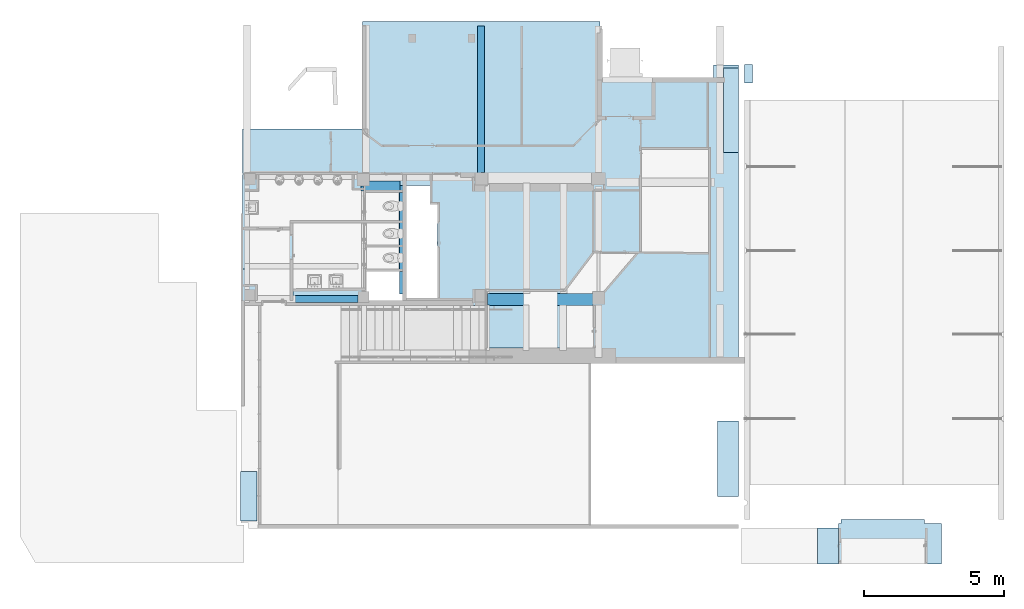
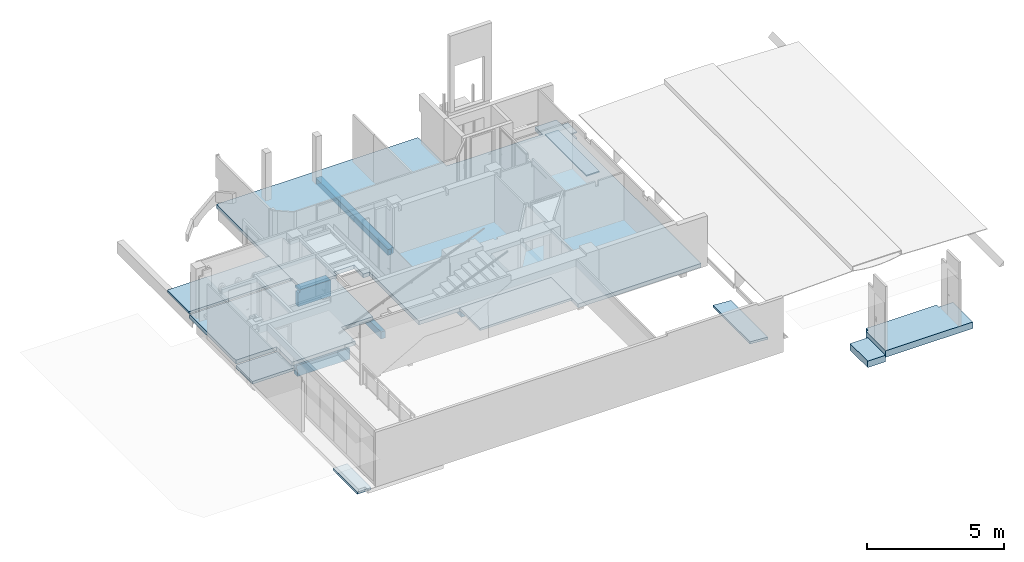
# One storey, part 2 of 32: 12 slabs, 5 beams.
"""IFC4 building model written with IfcOpenShell, lengths in metres."""

from ifc_helpers import new_model, entity, si_unit, converted_unit, derived_unit, direction, frame, origin, place, context, subcontext, project, spatial, indexed_curve, outline, extrude, polygons, source, transform, mapped, material, layer, layer_set, type_object, type_shapes, element, save


model = new_model("IFC4")

# Units and contexts
model_context = context("Model", 3, precision=1e-05, world=origin(), true_north=direction((6.12303176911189e-17, 1.0)))
body_context = subcontext(model_context, "Body", "Model", "MODEL_VIEW")
ifc_project = project(units=[si_unit("LENGTHUNIT", "METRE"), si_unit("AREAUNIT", "SQUARE_METRE"), si_unit("VOLUMEUNIT", "CUBIC_METRE"), converted_unit("PLANEANGLEUNIT", "DEGREE", entity("IfcRatioMeasure", 0.0174532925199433), si_unit("PLANEANGLEUNIT", "RADIAN"), dimensions=[0, 0, 0, 0, 0, 0, 0]), si_unit("MASSUNIT", "GRAM", prefix="KILO"), derived_unit("MASSDENSITYUNIT", [(si_unit("MASSUNIT", "GRAM", prefix="KILO"), 1), (si_unit("LENGTHUNIT", "METRE"), -3)]), derived_unit("MOMENTOFINERTIAUNIT", [(si_unit("LENGTHUNIT", "METRE"), 4)]), si_unit("TIMEUNIT", "SECOND"), si_unit("FREQUENCYUNIT", "HERTZ"), si_unit("THERMODYNAMICTEMPERATUREUNIT", "DEGREE_CELSIUS"), derived_unit("THERMALTRANSMITTANCEUNIT", [(si_unit("MASSUNIT", "GRAM", prefix="KILO"), 1), (si_unit("THERMODYNAMICTEMPERATUREUNIT", "KELVIN"), -1), (si_unit("TIMEUNIT", "SECOND"), -3)]), derived_unit("VOLUMETRICFLOWRATEUNIT", [(si_unit("LENGTHUNIT", "METRE"), 3), (si_unit("TIMEUNIT", "SECOND"), -1)]), si_unit("ELECTRICCURRENTUNIT", "AMPERE"), si_unit("ELECTRICVOLTAGEUNIT", "VOLT"), si_unit("POWERUNIT", "WATT"), si_unit("FORCEUNIT", "NEWTON", prefix="KILO"), si_unit("ILLUMINANCEUNIT", "LUX"), si_unit("LUMINOUSFLUXUNIT", "LUMEN"), si_unit("LUMINOUSINTENSITYUNIT", "CANDELA"), derived_unit("USERDEFINED", [(si_unit("MASSUNIT", "GRAM", prefix="KILO"), -1), (si_unit("LENGTHUNIT", "METRE"), -2), (si_unit("TIMEUNIT", "SECOND"), 3), (si_unit("LUMINOUSFLUXUNIT", "LUMEN"), 1)]), derived_unit("LINEARVELOCITYUNIT", [(si_unit("LENGTHUNIT", "METRE"), 1), (si_unit("TIMEUNIT", "SECOND"), -1)]), si_unit("PRESSUREUNIT", "PASCAL"), derived_unit("USERDEFINED", [(si_unit("LENGTHUNIT", "METRE"), -2), (si_unit("MASSUNIT", "GRAM", prefix="KILO"), 1), (si_unit("TIMEUNIT", "SECOND"), -2)]), derived_unit("LINEARFORCEUNIT", [(si_unit("MASSUNIT", "GRAM", prefix="KILO"), 1), (si_unit("LENGTHUNIT", "METRE"), 1), (si_unit("TIMEUNIT", "SECOND"), -2), (si_unit("LENGTHUNIT", "METRE"), -1)]), derived_unit("PLANARFORCEUNIT", [(si_unit("MASSUNIT", "GRAM", prefix="KILO"), 1), (si_unit("LENGTHUNIT", "METRE"), 1), (si_unit("TIMEUNIT", "SECOND"), -2), (si_unit("LENGTHUNIT", "METRE"), -2)])], contexts=[model_context])

# Site, building, storey
site_placement = place(None, origin())
site = spatial("IfcSite", under=ifc_project, at=site_placement, Name="Default", CompositionType="ELEMENT")
building_placement = place(site_placement, origin())
building = spatial("IfcBuilding", under=site, at=building_placement, Name="HOTEL CONSULAIRE BOULOGNE SUR MER", CompositionType="ELEMENT")
storey_placement = place(building_placement, frame((0.0, 0.0, -2.70343668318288)))
storey = spatial("IfcBuildingStorey", under=building, at=storey_placement, Name="SS1", CompositionType="ELEMENT", Elevation=-2.70343668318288)

# Beams
ifc_material_1 = material(Name="Béton - Béton coulé sur place", Category="Béton")
beam_type_1 = type_object("IfcBeamType", Name="Poutre rectangulaire - Béton:420X360", PredefinedType="BEAM", material=ifc_material_1)
shared_shape_1 = source(origin(), body_context, "Body", "Tessellation", [
    polygons([(3.765, -4.33146851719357e-15, 0.36), (3.765, -4.33146851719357e-15, 0.357990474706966), (3.765, -4.33146851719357e-15, 5.41433564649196e-16), (3.765, 0.419999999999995, 5.41433564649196e-16), (3.765, 0.419999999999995, 0.287990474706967), (3.765, 0.00299545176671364, 0.287990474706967), (3.765, 0.00299545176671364, 0.357990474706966), (3.765, 0.00299545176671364, 0.36), (2.16573425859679e-15, 0.420000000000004, 5.41433564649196e-16), (5.41433564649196e-16, 4.33146851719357e-15, 5.41433564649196e-16), (5.41433564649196e-16, 4.33146851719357e-15, 0.013999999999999), (5.41433564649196e-16, 0.0125453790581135, 0.013999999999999), (5.41433564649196e-16, 0.0125453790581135, 0.287990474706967), (2.16573425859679e-15, 0.420000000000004, 0.287990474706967), (0.0712821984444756, 8.66293703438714e-15, 0.36), (0.0712821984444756, 8.66293703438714e-15, 0.013999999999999), (3.71220501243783, -4.33146851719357e-15, 5.41433564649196e-16), (3.70676141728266, 0.419999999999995, 5.41433564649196e-16), (1.26028219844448, 0.420000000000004, 0.287990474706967), (1.51028219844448, 0.420000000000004, 0.287990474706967), (2.58628219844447, 0.42, 0.287990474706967), (2.83628219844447, 0.42, 0.287990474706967), (3.70676141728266, 0.419999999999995, 0.287990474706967), (0.0712821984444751, 0.0029954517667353, 0.36), (0.0712821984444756, 0.0125453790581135, 0.013999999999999), (0.0712821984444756, 0.0125453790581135, 0.287990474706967), (0.0712821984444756, 0.0029954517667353, 0.287990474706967)], [[[1, 2, 3, 4, 5, 6, 7, 8]], [[12, 13, 14, 9, 10, 11]], [[27, 26, 25, 16, 15, 24]], [[2, 1, 15, 16, 11, 10, 17, 3]], [[12, 25, 26, 13]], [[4, 3, 17, 10, 9, 18]], [[4, 18, 9, 14, 19, 20, 21, 22, 23, 5]], [[7, 6, 27, 24, 8]], [[1, 8, 24, 15]], [[16, 25, 12, 11]], [[23, 22, 21, 20, 19, 14, 13, 26, 27, 6, 5]]], closed=True),
])
type_shapes(beam_type_1, [shared_shape_1])
beam_1_placement = place(storey_placement, frame((3.19655886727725, -20.097909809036, -0.144000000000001)))
element("IfcBeam", 1, at=beam_1_placement, inside=storey, type_object=beam_type_1, material=ifc_material_1, Name="Poutre rectangulaire - Béton:420X360", ObjectType="Poutre rectangulaire - Béton:420X360", PredefinedType="BEAM", context=body_context, shape_type="MappedRepresentation", body=[
    mapped(shared_shape_1, transform((0.0, 0.0, 0.0), scale=1.0)),
])
beam_type_2 = type_object("IfcBeamType", Name="Poutre rectangulaire - Béton:360x720", PredefinedType="BEAM", material=ifc_material_1)
shared_shape_2 = source(origin(), body_context, "Body", "Tessellation", [
    polygons([(1.3804, 0.0, 0.0), (1.3804, 0.36, 0.0), (1.3804, 0.36, 0.713990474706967), (1.3804, 0.0, 0.713990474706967), (1.3804, 0.0, 0.63), (1.3804, 0.0, 0.31), (5.41433564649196e-16, 0.169000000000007, 0.0), (0.0, 4.33146851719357e-15, 0.0), (0.0, 4.33146851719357e-15, 0.615000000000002), (5.41433564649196e-16, 0.169000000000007, 0.615000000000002), (0.0810357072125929, 4.33146851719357e-15, 0.713990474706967), (0.0810357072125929, 4.33146851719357e-15, 0.63), (0.0810357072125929, 4.33146851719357e-15, 0.615000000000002), (0.0127000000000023, 4.33146851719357e-15, 0.615000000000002), (0.306035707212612, 0.169000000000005, 0.0), (0.306035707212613, 0.360000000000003, 0.0), (0.306035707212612, 0.360000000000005, 0.32), (0.306035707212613, 0.360000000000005, 0.615000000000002), (0.0810357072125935, 0.360000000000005, 0.615000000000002), (0.0810357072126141, 0.360000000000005, 0.713990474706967), (0.306035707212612, 0.169000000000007, 0.615000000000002), (0.0810357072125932, 0.169000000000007, 0.615000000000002)], [[[3, 4, 5, 6, 1, 2]], [[7, 8, 9, 10]], [[17, 16, 15, 21, 18]], [[20, 19, 22, 13, 12, 11]], [[13, 14, 9, 8, 1, 6, 5, 4, 11, 12]], [[2, 1, 8, 7, 15, 16]], [[22, 19, 18, 21]], [[3, 2, 16, 17, 18, 19, 20]], [[15, 7, 10, 22, 21]], [[11, 4, 3, 20]], [[22, 10, 9, 14, 13]]], closed=True),
])
type_shapes(beam_type_2, [shared_shape_2])
beam_2_placement = place(storey_placement, frame((-1.30985893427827, -16.009909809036, -0.570000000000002)))
element("IfcBeam", 2, at=beam_2_placement, inside=storey, type_object=beam_type_2, material=ifc_material_1, Name="Poutre rectangulaire - Béton:360x720", ObjectType="Poutre rectangulaire - Béton:360x720", PredefinedType="BEAM", context=body_context, shape_type="MappedRepresentation", body=[
    mapped(shared_shape_2, transform((0.0, 0.0, 0.0), scale=1.0)),
])
beam_type_3 = type_object("IfcBeamType", Name="Poutre rectangulaire - Béton:250X300", PredefinedType="BEAM", material=ifc_material_1)
shared_shape_3 = source(origin(), body_context, "Body", "Tessellation", [
    polygons([(0.25, 5.268992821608, 0.0), (0.0, 5.268992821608, 0.0), (0.0, 5.268992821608, 0.263990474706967), (0.25, 5.268992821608, 0.263990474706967), (0.25, 3.26944344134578, 0.263990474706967), (0.25, 3.11944344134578, 0.263990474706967), (0.25, 1.72200000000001, 0.263990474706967), (0.25, 1.57200000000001, 0.263990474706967), (0.25, 0.0429999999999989, 0.263990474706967), (0.25, 0.0429999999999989, 0.0), (0.25, 1.57200000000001, 0.0), (0.25, 1.72200000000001, 0.0), (0.25, 3.11944344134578, 0.0), (0.25, 3.26944344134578, 0.0), (0.136057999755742, 0.0429999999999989, 0.0), (0.136057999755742, 0.0, 0.0), (0.0, 0.0, 0.0), (0.0, 1.57200000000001, 0.0), (0.0, 1.72200000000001, 0.0), (0.0, 3.11944344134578, 0.0), (0.0, 3.26944344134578, 0.0), (0.0, 0.0, 0.263990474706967), (0.0, 1.57200000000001, 0.263990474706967), (0.0, 1.72200000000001, 0.263990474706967), (0.0, 3.11944344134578, 0.263990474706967), (0.0, 3.26944344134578, 0.263990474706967), (0.136057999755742, 0.0429999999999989, 0.263990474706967), (0.136057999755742, 0.0, 0.263990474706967)], [[[3, 4, 1, 2]], [[6, 7, 8, 9, 10, 11, 12, 13, 14, 1, 4, 5]], [[27, 28, 16, 15]], [[19, 20, 21, 2, 1, 14, 13, 12, 11, 10, 15, 16, 17, 18]], [[20, 19, 18, 17, 22, 23, 24, 25, 26, 3, 2, 21]], [[27, 15, 10, 9]], [[17, 16, 28, 22]], [[26, 25, 24, 23, 22, 28, 27, 9, 8, 7, 6, 5, 4, 3]]], closed=True),
])
type_shapes(beam_type_3, [shared_shape_3])
beam_3_placement = place(storey_placement, frame((2.83543794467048, -15.390909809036, -0.120000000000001)))
element("IfcBeam", 3, at=beam_3_placement, inside=storey, type_object=beam_type_3, material=ifc_material_1, Name="Poutre rectangulaire - Béton:250X300", ObjectType="Poutre rectangulaire - Béton:250X300", PredefinedType="BEAM", context=body_context, shape_type="MappedRepresentation", body=[
    mapped(shared_shape_3, transform((0.0, 0.0, 0.0), scale=1.0)),
])
beam_type_4 = type_object("IfcBeamType", Name="Poutre rectangulaire - Béton:180X320", PredefinedType="BEAM", material=ifc_material_1)
shared_shape_4 = source(origin(), body_context, "Body", "Tessellation", [
    polygons([(0.18, 3.8734, 0.32), (0.18, 3.8734, 0.260000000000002), (0.18, 3.8734, 0.0), (0.0127000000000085, 3.8734, 0.0), (0.0127000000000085, 3.8734, 0.32), (0.114427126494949, 3.8734, 0.32), (0.18, 0.0, 0.32), (0.114427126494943, 0.0, 0.32), (3.38395977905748e-16, 0.0, 0.32), (3.38395977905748e-16, 0.0, 0.0), (0.18, 0.0, 0.0), (0.18, 0.0, 0.260000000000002), (3.72235575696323e-16, 3.6807, 0.0), (0.0127000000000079, 3.6807, 0.0), (3.46855877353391e-16, 0.807700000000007, 0.32), (3.46855877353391e-16, 0.807700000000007, 0.305000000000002), (3.72235575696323e-16, 3.63237639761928, 0.305000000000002), (3.72235575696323e-16, 3.63237639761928, 0.32), (3.72235575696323e-16, 3.6807, 0.32), (0.0127000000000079, 3.6807, 0.32), (0.114427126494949, 3.63237639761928, 0.32), (0.125931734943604, 3.63237639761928, 0.32), (0.125931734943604, 0.807700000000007, 0.32), (0.114427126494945, 0.807700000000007, 0.32), (0.125931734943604, 0.807700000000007, 0.305000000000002), (0.125931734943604, 3.63237639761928, 0.305000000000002)], [[[6, 1, 2, 3, 4, 5]], [[19, 20, 14, 13]], [[24, 23, 25, 16, 15]], [[10, 11, 12, 7, 8, 9]], [[21, 18, 17, 26, 22]], [[2, 1, 7, 12, 11, 3]], [[14, 4, 3, 11, 10, 13]], [[13, 10, 9, 15, 16, 17, 18, 19]], [[22, 26, 25, 23]], [[4, 14, 20, 5]], [[20, 19, 18, 21, 22, 23, 24, 15, 9, 8, 7, 1, 6, 5]], [[26, 17, 16, 25]]], closed=True),
])
type_shapes(beam_type_4, [shared_shape_4])
beam_4_placement = place(storey_placement, frame((0.0578410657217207, -19.690609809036, -0.260000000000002)))
element("IfcBeam", 4, at=beam_4_placement, inside=storey, type_object=beam_type_4, material=ifc_material_1, Name="Poutre rectangulaire - Béton:180X320", ObjectType="Poutre rectangulaire - Béton:180X320", PredefinedType="BEAM", context=body_context, shape_type="MappedRepresentation", body=[
    mapped(shared_shape_4, transform((0.0, 0.0, 0.0), scale=1.0)),
])
beam_type_5 = type_object("IfcBeamType", Name="Poutre rectangulaire - Béton:250x500", PredefinedType="BEAM", material=ifc_material_1)
shared_shape_5 = source(origin(), body_context, "Body", "Tessellation", [
    polygons([(2.2407, 0.0, 0.5), (2.2407, 0.0, 0.32), (2.2407, 0.0, 0.0), (2.2407, 0.00532151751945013, 0.0), (2.2407, 0.249999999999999, 0.0), (2.2407, 0.249999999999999, 0.485000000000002), (2.2407, 0.0833169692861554, 0.485000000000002), (2.2407, 0.0833169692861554, 0.5), (2.2407, 0.00532151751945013, 0.5), (0.0, 8.66293703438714e-15, 0.32), (0.0, 8.66293703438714e-15, 0.440000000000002), (0.0, 8.66293703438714e-15, 0.5), (5.41433564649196e-16, 0.0833169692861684, 0.5), (5.41433564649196e-16, 0.0833169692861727, 0.485000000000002), (1.08286712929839e-15, 0.250000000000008, 0.485000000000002), (1.08286712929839e-15, 0.250000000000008, 0.32), (5.41433564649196e-16, 0.0833169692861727, 0.32), (0.0250575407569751, 8.66293703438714e-15, 0.32), (0.0250575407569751, 8.66293703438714e-15, 0.0), (2.22250263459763, 0.0, 0.0), (0.0250575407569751, 0.250000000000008, 0.0), (2.22250263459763, 0.249999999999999, 0.0), (0.0250575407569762, 0.250000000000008, 0.32), (2.22250263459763, 0.249999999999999, 0.485000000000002)], [[[7, 8, 9, 1, 2, 3, 4, 5, 6]], [[10, 11, 12, 13, 14, 15, 16, 17]], [[19, 18, 23, 21]], [[20, 3, 2, 1, 12, 11, 10, 18, 19]], [[4, 3, 20, 19, 21, 22, 5]], [[17, 16, 23, 18, 10]], [[5, 22, 21, 23, 16, 15, 24, 6]], [[13, 8, 7, 14]], [[9, 8, 13, 12, 1]], [[24, 15, 14, 7, 6]]], closed=True),
])
type_shapes(beam_type_5, [shared_shape_5])
beam_5_placement = place(storey_placement, frame((-3.6696615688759, -19.9982313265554, -0.440000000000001)))
element("IfcBeam", 5, at=beam_5_placement, inside=storey, type_object=beam_type_5, material=ifc_material_1, Name="Poutre rectangulaire - Béton:250x500", ObjectType="Poutre rectangulaire - Béton:250x500", PredefinedType="BEAM", context=body_context, shape_type="MappedRepresentation", body=[
    mapped(shared_shape_5, transform((0.0, 0.0, 0.0), scale=1.0)),
])

# Slabs
ifc_material_2 = material(Name="Plâtre", Category="Plâtre")
ifc_layer_1 = layer(ifc_material_2, 0.05, Name="Plâtre", Category="Plâtre")
ifc_layer_set_1 = layer_set([ifc_layer_1], Name="Sol:plâtre 50")
slab_type_1 = type_object("IfcSlabType", Name="Sol:plâtre 50", PredefinedType="FLOOR", material=ifc_layer_set_1)
slab_1_placement = place(storey_placement, origin())
element("IfcSlab", 6, at=slab_1_placement, inside=storey, type_object=slab_type_1, material=ifc_layer_set_1, Name="Sol:plâtre 50", ObjectType="Sol:plâtre 50", PredefinedType="FLOOR", context=body_context, shape_type="SweptSolid", body=[
    extrude(outline(indexed_curve([(-1.51118614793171, -0.274394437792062), (1.51118614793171, -0.274394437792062), (1.51118614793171, 0.274394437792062), (-1.51118614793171, 0.274394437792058), (-1.51118614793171, -0.274394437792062)], self_intersect=False)), frame((11.8848323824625, -13.1338657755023, -0.0800000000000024), z_axis=(0.0, 0.0, -1.0), x_axis=(0.0, 1.0, 0.0)), (0.0, 0.0, 1.0), 0.05),
])
ifc_material_3 = material(Name="Béton, coulé sur place", Category="Béton")
ifc_layer_2 = layer(ifc_material_3, 0.1, Name="Béton, coulé sur place", Category="Béton")
ifc_layer_set_2 = layer_set([ifc_layer_2], Name="Sol:béton 100")
slab_type_2 = type_object("IfcSlabType", Name="Sol:béton 100", PredefinedType="FLOOR", material=ifc_layer_set_2)
slab_2_placement = place(storey_placement, origin())
element("IfcSlab", 7, at=slab_2_placement, inside=storey, type_object=slab_type_2, material=ifc_layer_set_2, Name="Sol:béton 100", ObjectType="Sol:béton 100", PredefinedType="FLOOR", context=body_context, shape_type="SweptSolid", body=[
    extrude(outline(indexed_curve([(-0.382620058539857, -0.0498912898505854), (0.37602939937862, -0.0498912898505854), (0.382620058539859, 0.0498912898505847), (-0.376029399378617, 0.0498912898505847), (-0.382620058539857, -0.0498912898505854)], self_intersect=False)), frame((11.7807268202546, -26.9135227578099, -0.0429999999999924), z_axis=(0.0, 1.0, 0.0), x_axis=(-0.997825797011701, 0.0, 0.0659065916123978)), (0.0, 0.0, 1.0), 2.69133269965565),
])
slab_type_3 = type_object("IfcSlabType", Name="Sol:plâtre 50", PredefinedType="FLOOR", material=ifc_layer_set_1)
slab_3_placement = place(storey_placement, origin())
element("IfcSlab", 8, at=slab_3_placement, inside=storey, type_object=slab_type_3, material=ifc_layer_set_1, Name="Sol:plâtre 50", ObjectType="Sol:plâtre 50", PredefinedType="FLOOR", context=body_context, shape_type="SweptSolid", body=[
    extrude(outline(indexed_curve([(-0.337000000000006, -0.142318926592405), (0.337000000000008, -0.142318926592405), (0.337000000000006, 0.142318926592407), (-0.337000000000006, 0.142318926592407), (-0.337000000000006, -0.142318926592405)], self_intersect=False)), frame((12.501545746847, -11.8296796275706, -0.278999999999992), z_axis=(0.0, 0.0, -1.0), x_axis=(0.0, 1.0, 0.0)), (0.0, 0.0, 1.0), 0.05),
])
slab_type_4 = type_object("IfcSlabType", Name="Sol:plâtre 50", PredefinedType="FLOOR", material=ifc_layer_set_1)
slab_4_placement = place(storey_placement, origin())
element("IfcSlab", 9, at=slab_4_placement, inside=storey, type_object=slab_type_4, material=ifc_layer_set_1, Name="Sol:plâtre 50", ObjectType="Sol:plâtre 50", PredefinedType="FLOOR", context=body_context, shape_type="SweptSolid", body=[
    extrude(outline(indexed_curve([(-0.337000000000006, -0.142318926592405), (0.337000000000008, -0.142318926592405), (0.337000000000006, 0.142318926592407), (-0.337000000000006, 0.142318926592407), (-0.337000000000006, -0.142318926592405)], self_intersect=False)), frame((12.501545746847, -11.8296796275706, 0.0), z_axis=(0.0, 0.0, -1.0), x_axis=(0.0, 1.0, 0.0)), (0.0, 0.0, 1.0), 0.05),
])
ifc_material_4 = material(Name="carrelage 30x30")
ifc_layer_3 = layer(ifc_material_4, 0.04, Name="carrelage 30x30")
ifc_layer_4 = layer(ifc_material_1, 0.25, Name="Béton - Béton coulé sur place", Category="Béton")
ifc_layer_set_3 = layer_set([ifc_layer_3, ifc_layer_4], Name="Sol:Dalle en béton -250 finition carrelage beige")
slab_type_5 = type_object("IfcSlabType", Name="Sol:Dalle en béton -250 finition carrelage beige", PredefinedType="FLOOR", material=ifc_layer_set_3)
slab_5_placement = place(storey_placement, origin())
element("IfcSlab", 10, at=slab_5_placement, inside=storey, type_object=slab_type_5, material=ifc_layer_set_3, Name="Sol:Dalle en béton -250 finition carrelage beige", ObjectType="Sol:Dalle en béton -250 finition carrelage beige", PredefinedType="FLOOR", context=body_context, shape_type="SweptSolid", body=[
    extrude(outline(indexed_curve([(-0.647121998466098, -0.376000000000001), (0.647121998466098, -0.376000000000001), (0.647121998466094, 0.376000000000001), (-0.647121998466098, 0.375999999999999), (-0.647121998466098, -0.376000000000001)], self_intersect=False)), frame((15.3439055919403, -28.6709451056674, -0.6156), z_axis=(0.0, 0.0, -1.0), x_axis=(0.0, 1.0, 0.0)), (0.0, 0.0, 1.0), 0.29),
])
slab_type_6 = type_object("IfcSlabType", Name="Sol:Dalle en béton -250 finition carrelage beige", PredefinedType="FLOOR", material=ifc_layer_set_3)
slab_6_placement = place(storey_placement, origin())
element("IfcSlab", 11, at=slab_6_placement, inside=storey, type_object=slab_type_6, material=ifc_layer_set_3, Name="Sol:Dalle en béton -250 finition carrelage beige", ObjectType="Sol:Dalle en béton -250 finition carrelage beige", PredefinedType="FLOOR", context=body_context, shape_type="SweptSolid", body=[
    extrude(outline(indexed_curve([(-1.12068299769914, -1.7046796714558), (0.323560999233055, -1.7046796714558), (0.323560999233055, -1.6146796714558), (0.473560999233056, -1.6146796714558), (0.473560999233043, 1.35688413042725), (0.323560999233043, 1.35688413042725), (0.323560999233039, 1.96247521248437), (-1.12068299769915, 1.96247521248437), (-1.12068299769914, -1.7046796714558)], self_intersect=False)), frame((17.4245852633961, -28.1973841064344, -0.418774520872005), z_axis=(0.0, 0.0, -1.0), x_axis=(0.0, 1.0, 0.0)), (0.0, 0.0, 1.0), 0.29),
])
slab_type_7 = type_object("IfcSlabType", Name="Sol:béton 100", PredefinedType="FLOOR", material=ifc_layer_set_2)
slab_7_placement = place(storey_placement, origin())
element("IfcSlab", 12, at=slab_7_placement, inside=storey, type_object=slab_type_7, material=ifc_layer_set_2, Name="Sol:béton 100", ObjectType="Sol:béton 100", PredefinedType="FLOOR", context=body_context, shape_type="SweptSolid", body=[
    extrude(outline(indexed_curve([(-0.877258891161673, -0.292963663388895), (0.877258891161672, -0.292963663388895), (0.877258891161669, 0.292963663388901), (-0.877258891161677, 0.29296366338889), (-0.877258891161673, -0.292963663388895)], self_intersect=False)), frame((-5.31924208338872, -26.8980149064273, -0.17), z_axis=(0.0, 0.0, -1.0), x_axis=(0.0, 1.0, 0.0)), (0.0, 0.0, 1.0), 0.1),
])
ifc_material_5 = material(Name="carrelage noir")
ifc_layer_5 = layer(ifc_material_5, 0.02, Name="carrelage noir")
ifc_layer_6 = layer(ifc_material_1, 0.1, Name="Béton - Béton coulé sur place", Category="Béton")
ifc_layer_set_4 = layer_set([ifc_layer_5, ifc_layer_6], Name="Sol:béton 100+carrelage noir")
slab_type_8 = type_object("IfcSlabType", Name="Sol:béton 100+carrelage noir", PredefinedType="FLOOR", material=ifc_layer_set_4)
slab_8_placement = place(storey_placement, origin())
element("IfcSlab", 13, at=slab_8_placement, inside=storey, type_object=slab_type_8, material=ifc_layer_set_4, Name="Sol:béton 100+carrelage noir", ObjectType="Sol:béton 100+carrelage noir", PredefinedType="FLOOR", context=body_context, shape_type="SweptSolid", body=[
    extrude(outline(indexed_curve([(-0.603846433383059, -0.8975), (0.603846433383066, -0.8975), (0.603846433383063, 0.8975), (-0.60384643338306, 0.8975), (-0.603846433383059, -0.8975)], self_intersect=False)), frame((-4.63448856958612, -19.3943848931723, 0.0), z_axis=(0.0, 0.0, -1.0), x_axis=(0.0, 1.0, 0.0)), (0.0, 0.0, 1.0), 0.12),
])
ifc_layer_7 = layer(ifc_material_5, 0.02, Name="carrelage noir")
ifc_layer_8 = layer(ifc_material_1, 0.15, Name="Béton - Béton coulé sur place", Category="Béton")
ifc_layer_set_5 = layer_set([ifc_layer_7, ifc_layer_8], Name="Sol:Dalle en béton -150mm + finition carrelage noir")
slab_type_9 = type_object("IfcSlabType", Name="Sol:Dalle en béton -150mm + finition carrelage noir", PredefinedType="FLOOR", material=ifc_layer_set_5)
slab_9_placement = place(storey_placement, origin())
element("IfcSlab", 14, at=slab_9_placement, inside=storey, type_object=slab_type_9, material=ifc_layer_set_5, Name="Sol:Dalle en béton -150mm + finition carrelage noir", ObjectType="Sol:Dalle en béton -150mm + finition carrelage noir", PredefinedType="FLOOR", context=body_context, shape_type="SweptSolid", body=[
    extrude(outline(indexed_curve([(-0.97509464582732, -3.22177068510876), (2.38482078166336, -3.22177068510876), (2.38482078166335, 1.08139465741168), (1.75721040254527, 1.08139465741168), (1.75721040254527, 2.49399068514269), (-1.06746599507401, 2.49399068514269), (-1.06746599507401, 1.1613946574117), (-2.0994705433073, 1.1613946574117), (-2.09947054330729, -1.51500931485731), (-0.975094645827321, -1.51500931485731), (-0.97509464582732, -3.22177068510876)], self_intersect=False)), frame((-2.31021788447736, -17.815443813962, 0.214999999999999), z_axis=(0.0, 0.0, -1.0), x_axis=(0.0, 1.0, 0.0)), (0.0, 0.0, 1.0), 0.17),
])
ifc_layer_9 = layer(ifc_material_4, 0.02, Name="carrelage 30x30")
ifc_layer_10 = layer(ifc_material_1, 0.08, Name="Béton - Béton coulé sur place", Category="Béton")
ifc_layer_set_6 = layer_set([ifc_layer_9, ifc_layer_10], Name="Sol:béton 80+carrelage")
slab_type_10 = type_object("IfcSlabType", Name="Sol:béton 80+carrelage", PredefinedType="FLOOR", material=ifc_layer_set_6)
slab_10_placement = place(storey_placement, origin())
element("IfcSlab", 15, at=slab_10_placement, inside=storey, type_object=slab_type_10, material=ifc_layer_set_6, Name="Sol:béton 80+carrelage", ObjectType="Sol:béton 80+carrelage", PredefinedType="FLOOR", context=body_context, shape_type="SweptSolid", body=[
    extrude(outline(indexed_curve([(-0.797539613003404, -2.13628253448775), (0.797539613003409, -2.13628253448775), (0.797539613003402, 2.13628253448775), (-0.797539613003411, 2.13628253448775), (-0.797539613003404, -2.13628253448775)], self_intersect=False)), frame((-3.39570603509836, -14.5930834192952, 0.313990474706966), z_axis=(0.0, 0.0, -1.0), x_axis=(0.0, 1.0, 0.0)), (0.0, 0.0, 1.0), 0.1),
])
ifc_layer_11 = layer(ifc_material_4, 0.02, Name="carrelage 30x30")
ifc_layer_12 = layer(ifc_material_1, 0.15, Name="Béton - Béton coulé sur place", Category="Béton")
ifc_layer_set_7 = layer_set([ifc_layer_11, ifc_layer_12], Name="Sol:béton 150+carrelage")
slab_type_11 = type_object("IfcSlabType", Name="Sol:béton 150+carrelage", PredefinedType="FLOOR", material=ifc_layer_set_7)
slab_11_placement = place(storey_placement, origin())
element("IfcSlab", 16, at=slab_11_placement, inside=storey, type_object=slab_type_11, material=ifc_layer_set_7, Name="Sol:béton 150+carrelage", ObjectType="Sol:béton 150+carrelage", PredefinedType="FLOOR", context=body_context, shape_type="SweptSolid", body=[
    extrude(outline(indexed_curve([(0.0708646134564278, -5.47882535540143), (5.52716347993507, -5.47882535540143), (5.52716347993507, 2.99957841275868), (3.44069633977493, 2.99957841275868), (3.44069633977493, 7.03124183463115), (3.97880801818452, 7.03124183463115), (3.97880801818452, 7.93982496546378), (-6.55273140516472, 7.9398249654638), (-6.55273140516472, 2.75752501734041), (-4.59342671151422, 2.75752501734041), (-4.5934267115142, -2.80162905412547), (-0.990422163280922, -2.80162905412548), (-0.990422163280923, -3.06762905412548), (-0.324206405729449, -3.06762905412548), (-0.324206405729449, -3.93186168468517), (-0.556745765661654, -3.93186168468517), (-0.556745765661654, -5.44822508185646), (0.0708646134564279, -5.44822508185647), (0.0708646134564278, -5.47882535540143)], self_intersect=False)), frame((4.21940185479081, -15.5014876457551, 0.313990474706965), z_axis=(0.0, 0.0, -1.0), x_axis=(0.0, 1.0, 0.0)), (0.0, 0.0, 1.0), 0.17),
])
slab_type_12 = type_object("IfcSlabType", Name="Sol:béton 80+carrelage", PredefinedType="FLOOR", material=ifc_layer_set_6)
slab_12_placement = place(storey_placement, origin())
element("IfcSlab", 17, at=slab_12_placement, inside=storey, type_object=slab_type_12, material=ifc_layer_set_6, Name="Sol:béton 80+carrelage", ObjectType="Sol:béton 80+carrelage", PredefinedType="FLOOR", context=body_context, shape_type="SweptSolid", body=[
    extrude(outline(indexed_curve([(-0.757731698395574, -1.92954290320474), (0.757731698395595, -1.92954290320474), (0.757731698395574, 1.92954290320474), (-0.757731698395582, 1.92954290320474), (-0.757731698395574, -1.92954290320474)], self_intersect=False)), frame((5.04738396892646, -20.8526460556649, 0.313990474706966), z_axis=(0.0, 0.0, -1.0), x_axis=(0.0, 1.0, 0.0)), (0.0, 0.0, 1.0), 0.1),
])

save(model, "model.ifc")
